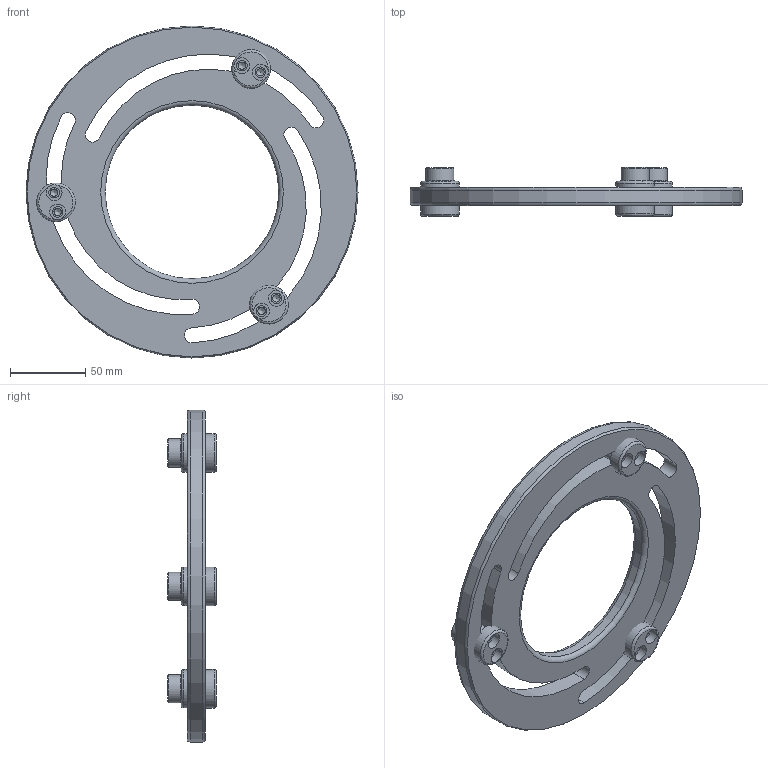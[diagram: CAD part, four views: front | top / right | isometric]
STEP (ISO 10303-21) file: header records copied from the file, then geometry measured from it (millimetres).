
FILE_DESCRIPTION(/* description */ (''),/* implementation_level */ '2;1');
FILE_NAME(/* name */ '',/* time_stamp */ '2024-09-12T09:54:58+03:00',/* author */ ('KanaanMD'),/* organization */ (''),/* preprocessor_version */ 'ST-DEVELOPER v19.2',/* originating_system */ 'Autodesk Inventor 2024',/* authorisation */ '');
FILE_SCHEMA (('AUTOMOTIVE_DESIGN { 1 0 10303 214 3 1 1 }'));
Length unit declared in the file: millimetre
Products named in the file (4): JB-10 приспособление 
для расточки кулачков 
токарного патрона; JB-08 приспособление 
для расточки кулачков 
токарного патрона; Прижим Д1; Прижим Д2
Assembly tree (7 placements, depth 2):
  JB-10 приспособление 
для расточки кулачков 
токарного патрона
    JB-08 приспособление 
для расточки кулачков 
токарного патрона
    Прижим Д1  x3
    Прижим Д2  x3
Bounding box: 220 x 32.22 x 220 mm (x, y, z)
Volume: 290211.9 mm3; surface area: 84035.1 mm2
Topology: 7 solids, 7 shells, 101 faces, 237 edges, 156 vertices
Faces by surface type: cylinder 53, plane 26, torus 13, cone 9
Full cylindrical faces by diameter (mm): 4.917 x6, 7 x6, 10.5 x6, 18.6 x3, 25.5 x3, 25.6 x3, 115 x1, 220 x1
Entity records: 1666 total; most frequent: DIRECTION 306, CARTESIAN_POINT 280, ORIENTED_EDGE 226, AXIS2_PLACEMENT_3D 138, EDGE_CURVE 113, CIRCLE 80, VERTEX_POINT 76, EDGE_LOOP 63
